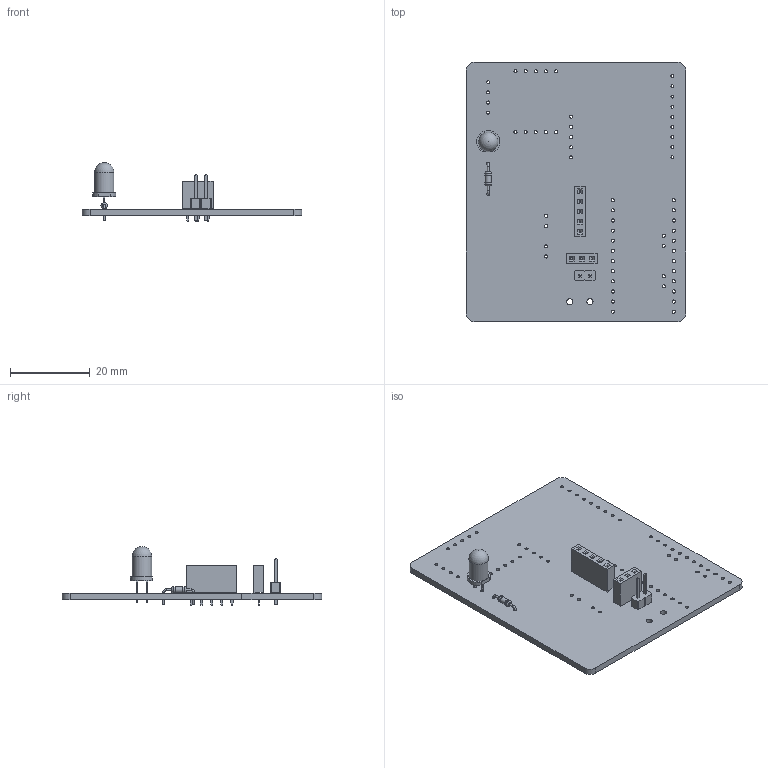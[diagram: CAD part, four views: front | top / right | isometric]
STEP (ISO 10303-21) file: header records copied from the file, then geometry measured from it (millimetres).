
FILE_DESCRIPTION(('KiCad electronic assembly'),'2;1');
FILE_NAME('Remote Sensor 2.step','2022-04-12T20:02:49',('An Author'),( 'A Company'),'Open CASCADE STEP processor 7.5', 'KiCad to STEP converter','Unknown');
FILE_SCHEMA(('AUTOMOTIVE_DESIGN { 1 0 10303 214 1 1 1 1 }'));
Length unit declared in the file: millimetre
Products named in the file (12): Open CASCADE STEP translator 7.5 1; PinSocket_1x05_P2.54mm_Vertical; SOLID; PinSocket_1x03_P2.54mm_Vertical; PinHeader_1x02_P2.54mm_Vertical; LED_D5.0mm; R_Axial_DIN0204_L3.6mm_D1.6mm_P7.62mm_Horizontal; COMPOUND
Assembly tree (11 placements, depth 3):
  Open CASCADE STEP translator 7.5 1
    PinSocket_1x05_P2.54mm_Vertical
      SOLID
    PinSocket_1x03_P2.54mm_Vertical
      SOLID
    PinHeader_1x02_P2.54mm_Vertical
      SOLID
    LED_D5.0mm
      SOLID
    R_Axial_DIN0204_L3.6mm_D1.6mm_P7.62mm_Horizontal
      SOLID
    COMPOUND
Bounding box: 55 x 65 x 14.7 mm (x, y, z)
Volume: 6189.9 mm3; surface area: 8715.5 mm2
Topology: 6 solids, 6 shells, 441 faces, 1130 edges, 735 vertices
Faces by surface type: plane 347, cylinder 89, torus 4, sphere 1
Full cylindrical faces by diameter (mm): 0.5 x4, 0.7 x2, 0.762 x32, 0.8 x28, 0.9 x2, 1 x10, 1.44 x1, 1.52 x2, 1.6 x2, 4.9 x1
Entity records: 30959 total; most frequent: CARTESIAN_POINT 4707, DIRECTION 4465, LINE 3026, VECTOR 3026, ORIENTED_EDGE 2258, PCURVE 2258, DEFINITIONAL_REPRESENTATION 2258, EDGE_CURVE 1129
